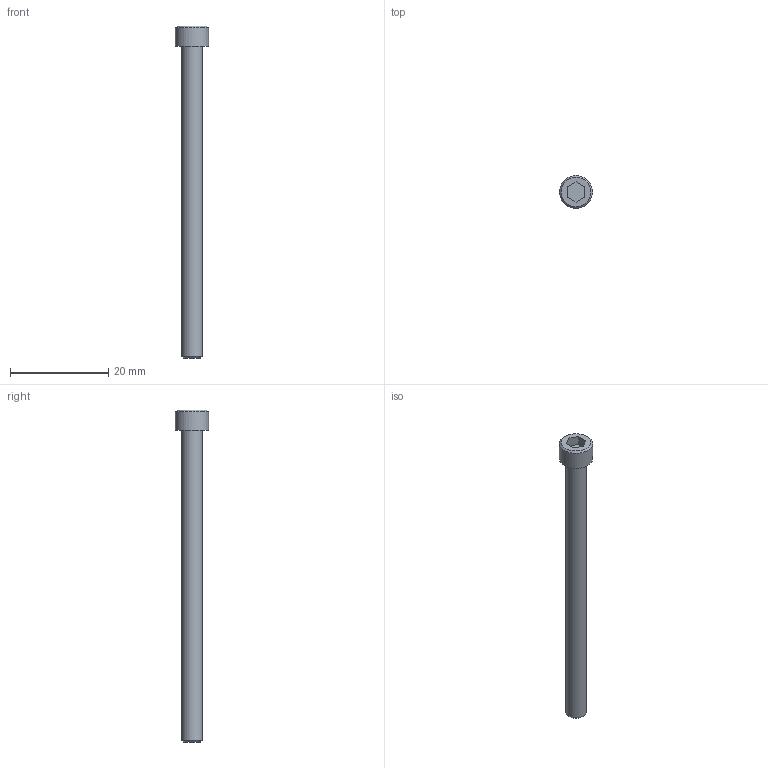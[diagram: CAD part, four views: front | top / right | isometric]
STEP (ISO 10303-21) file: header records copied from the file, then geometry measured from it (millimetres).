
FILE_DESCRIPTION((''),'2;1');
FILE_NAME('C:\Users\Stan\Desktop\import\SHCS 8-32 UNCx2.5.ipt.step','2011-08-18T17:45:39',(''),(''),'Autodesk Inventor 2012','Autodesk Inventor 2012','');
FILE_SCHEMA(('AUTOMOTIVE_DESIGN { 1 0 10303 214 1 1 1 1 }'));
Length unit declared in the file: inch
Products named in the file (1): SHCS 8-32 UNCx2.5
Bounding box: 6.76 x 6.76 x 67.61 mm (x, y, z)
Volume: 989.1 mm3; surface area: 1006.8 mm2
Topology: 1 solids, 1 shells, 14 faces, 28 edges, 18 vertices
Faces by surface type: plane 10, cone 2, cylinder 2
Full cylindrical faces by diameter (mm): 4.166 x1, 6.756 x1
Entity records: 391 total; most frequent: DIRECTION 60, CARTESIAN_POINT 57, ORIENTED_EDGE 48, EDGE_CURVE 24, AXIS2_PLACEMENT_3D 21, EDGE_LOOP 20, VERTEX_POINT 18, VECTOR 18
